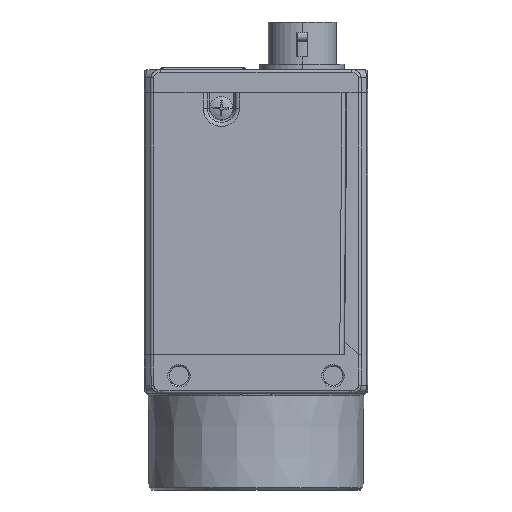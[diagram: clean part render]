
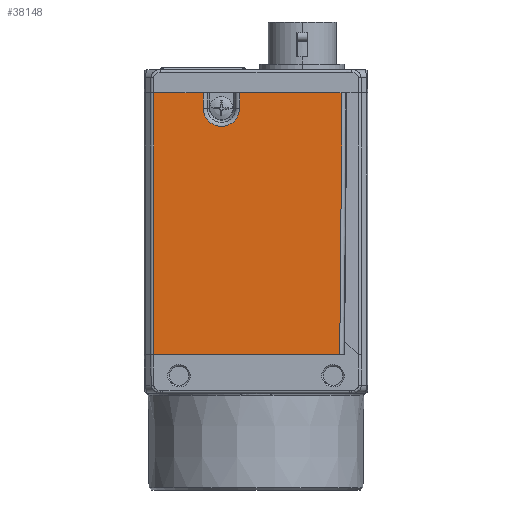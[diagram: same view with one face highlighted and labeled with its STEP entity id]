
A CAD part, left-side view. The second image highlights one B-rep face of the part: STEP entity #38148.
In plain terms, the highlighted planar face has unit normal (-1, 0, 0).
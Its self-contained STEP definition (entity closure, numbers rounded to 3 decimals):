
#9739=DIRECTION('',(0.,-1.,0.));
#9740=VECTOR('',#9739,6.435);
#9741=CARTESIAN_POINT('',(-14.5,13.293,33.5));
#9742=LINE('',#9741,#9740);
#9743=CARTESIAN_POINT('',(-14.5,4.5,31.5));
#9744=DIRECTION('',(-1.,0.,0.));
#9745=DIRECTION('',(0.,1.,0.));
#9746=AXIS2_PLACEMENT_3D('',#9743,#9744,#9745);
#9748=DIRECTION('',(0.,-1.,0.));
#9749=VECTOR('',#9748,13.312);
#9750=CARTESIAN_POINT('',(-14.5,2.142,33.5));
#9751=LINE('',#9750,#9749);
#9752=DIRECTION('',(0.,0.009,-1.));
#9753=VECTOR('',#9752,34.001);
#9754=CARTESIAN_POINT('',(-14.5,-11.17,
33.5));
#9755=LINE('',#9754,#9753);
#9818=DIRECTION('',(0.,-1.,0.));
#9819=VECTOR('',#9818,24.166);
#9820=CARTESIAN_POINT('',(-14.5,13.293,
-0.5));
#9821=LINE('',#9820,#9819);
#11941=DIRECTION('',(0.,0.,-1.));
#11942=VECTOR('',#11941,34.);
#11943=CARTESIAN_POINT('',(-14.5,13.293,
33.5));
#11944=LINE('',#11943,#11942);
#16071=DIRECTION('',(0.,0.,1.));
#16072=VECTOR('',#16071,2.);
#16073=CARTESIAN_POINT('',(-14.5,6.858,31.5));
#16074=LINE('',#16073,#16072);
#16097=DIRECTION('',(0.,0.,-1.));
#16098=VECTOR('',#16097,2.);
#16099=CARTESIAN_POINT('',(-14.5,2.142,
33.5));
#16100=LINE('',#16099,#16098);
#22054=CARTESIAN_POINT('',(-14.5,13.293,
33.5));
#22055=CARTESIAN_POINT('',(-14.5,6.858,
33.5));
#22056=VERTEX_POINT('',#22054);
#22057=VERTEX_POINT('',#22055);
#22058=CARTESIAN_POINT('',(-14.5,6.858,31.5));
#22059=CARTESIAN_POINT('',(-14.5,2.142,31.5));
#22060=VERTEX_POINT('',#22058);
#22061=VERTEX_POINT('',#22059);
#22062=CARTESIAN_POINT('',(-14.5,2.142,
33.5));
#22063=CARTESIAN_POINT('',(-14.5,-11.17,
33.5));
#22064=VERTEX_POINT('',#22062);
#22065=VERTEX_POINT('',#22063);
#22066=CARTESIAN_POINT('',(-14.5,-10.873,
-0.5));
#22067=VERTEX_POINT('',#22066);
#22077=CARTESIAN_POINT('',(-14.5,13.293,
-0.5));
#22078=VERTEX_POINT('',#22077);
#38127=CARTESIAN_POINT('',(-14.5,1.061,16.5));
#38128=DIRECTION('',(1.,0.,0.));
#38129=DIRECTION('',(0.,-1.,0.));
#38130=AXIS2_PLACEMENT_3D('',#38127,#38128,#38129);
#38131=PLANE('',#38130);
#38133=ORIENTED_EDGE('',*,*,#38132,.F.);
#38135=ORIENTED_EDGE('',*,*,#38134,.F.);
#38136=ORIENTED_EDGE('',*,*,#38105,.T.);
#38138=ORIENTED_EDGE('',*,*,#38137,.F.);
#38140=ORIENTED_EDGE('',*,*,#38139,.T.);
#38142=ORIENTED_EDGE('',*,*,#38141,.F.);
#38143=ORIENTED_EDGE('',*,*,#38120,.T.);
#38145=ORIENTED_EDGE('',*,*,#38144,.T.);
#38146=EDGE_LOOP('',(#38133,#38135,#38136,#38138,#38140,#38142,#38143,#38145));
#38147=FACE_OUTER_BOUND('',#38146,.F.);
#38148=ADVANCED_FACE('',(#38147),#38131,.F.);
#9747=CIRCLE('',#9746,2.358);
#38105=EDGE_CURVE('',#22056,#22057,#9742,.T.);
#38120=EDGE_CURVE('',#22064,#22065,#9751,.T.);
#38132=EDGE_CURVE('',#22078,#22067,#9821,.T.);
#38134=EDGE_CURVE('',#22056,#22078,#11944,.T.);
#38137=EDGE_CURVE('',#22060,#22057,#16074,.T.);
#38139=EDGE_CURVE('',#22060,#22061,#9747,.T.);
#38141=EDGE_CURVE('',#22064,#22061,#16100,.T.);
#38144=EDGE_CURVE('',#22065,#22067,#9755,.T.);
